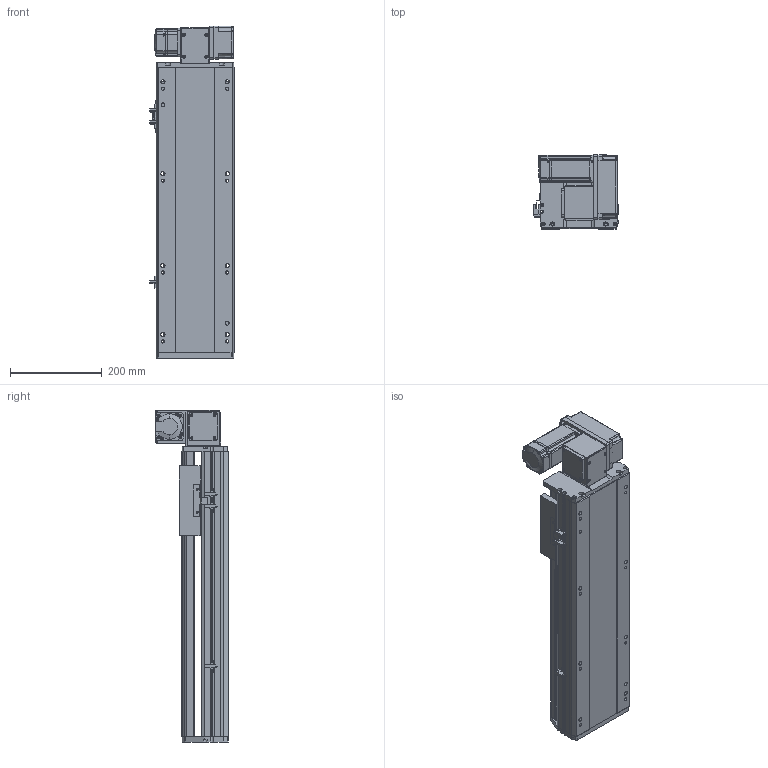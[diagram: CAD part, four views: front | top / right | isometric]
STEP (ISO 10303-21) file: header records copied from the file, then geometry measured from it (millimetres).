
FILE_DESCRIPTION (( 'STEP AP214' ), '1' );
FILE_NAME ('RTB17S-XX-350-RW-M40-C4.STEP', '2025-12-11T08:49:50', ( '' ), ( '' ), 'SwSTEP 2.0', 'SolidWorks 2018', '' );
FILE_SCHEMA (( 'AUTOMOTIVE_DESIGN' ));
Length unit declared in the file: millimetre
Products named in the file (14): RTB17S-L-007奻裔^RTB17S-XX-XX-RW-M40-C4; RTB14-L-018P^RTB17S-RW-々湍釱蚾饜-400W_RTB17S-XX-XX-RW-M40-C4; RTB17S-L-004佪裝蹟譫蟀諉釱^RTB17S-XX-XX-RW-M40-C4; RTB17-R-011菁釱^RTB17S-XX-XX-RW-M40-C4; RMP17S-L-014-T20--々湍釱^RTB17S-RW-々湍釱蚾饜-400W_RTB17S-XX-XX-RW-M40-C4; RTB14-L-017P^RTB17S-RW-々湍釱蚾饜-400W_RTB17S-XX-XX-RW-M40-C4; 400W侜督萇儂^RTB17S-XX-XX-RW-M40-C4; RTB14-L-005P--轴承塑胶压盖^RTB17S-RW-皮带座装配-400W_RTB17S-XX-XX-RW-M40-C4; RTB17S-L-001耜醱啣^RTB17S-XX-XX-RW-M40-C4; RTB14-L-008-M20--萇儂啣^RTB17S-RW-々湍釱蚾饜-400W_RTB17S-XX-XX-RW-M40-C4; OMRON EE-SX672 传感器^RTB17S-XX-XX-RW-M40-C4; RTH13-BL-012覜茼え俋离^RTB17S-XX-XX-RW-M40-C4; RTB17S-XX-350-RW-M40-C4; RTB17S-RW-々湍釱蚾饜-400W^RTB17S-XX-XX-RW-M40-C4
Assembly tree (16 placements, depth 3):
  RTB17S-XX-350-RW-M40-C4
    RTB17-R-011菁釱^RTB17S-XX-XX-RW-M40-C4
    RTB17S-L-007奻裔^RTB17S-XX-XX-RW-M40-C4
    OMRON EE-SX672 传感器^RTB17S-XX-XX-RW-M40-C4  x3
    RTB17S-L-001耜醱啣^RTB17S-XX-XX-RW-M40-C4
    400W侜督萇儂^RTB17S-XX-XX-RW-M40-C4
    RTB17S-L-004佪裝蹟譫蟀諉釱^RTB17S-XX-XX-RW-M40-C4
    RTH13-BL-012覜茼え俋离^RTB17S-XX-XX-RW-M40-C4
    RTB17S-RW-々湍釱蚾饜-400W^RTB17S-XX-XX-RW-M40-C4
      RMP17S-L-014-T20--々湍釱^RTB17S-RW-々湍釱蚾饜-400W_RTB17S-XX-XX-RW-M40-C4
      RTB14-L-005P--轴承塑胶压盖^RTB17S-RW-皮带座装配-400W_RTB17S-XX-XX-RW-M40-C4
      RTB14-L-008-M20--萇儂啣^RTB17S-RW-々湍釱蚾饜-400W_RTB17S-XX-XX-RW-M40-C4
      RTB14-L-017P^RTB17S-RW-々湍釱蚾饜-400W_RTB17S-XX-XX-RW-M40-C4  x2
      RTB14-L-018P^RTB17S-RW-々湍釱蚾饜-400W_RTB17S-XX-XX-RW-M40-C4
Bounding box: 183.5 x 160.5 x 722.5 mm (x, y, z)
Volume: 7073678.8 mm3; surface area: 920025.4 mm2
Topology: 15 solids, 15 shells, 2157 faces, 5925 edges, 3861 vertices
Faces by surface type: plane 1062, cylinder 647, bspline 301, cone 139, torus 8
Entity records: 60329 total; most frequent: CARTESIAN_POINT 16730, ORIENTED_EDGE 8694, DIRECTION 8126, EDGE_CURVE 4347, VERTEX_POINT 2849, AXIS2_PLACEMENT_3D 2779, LINE 2568, VECTOR 2568
